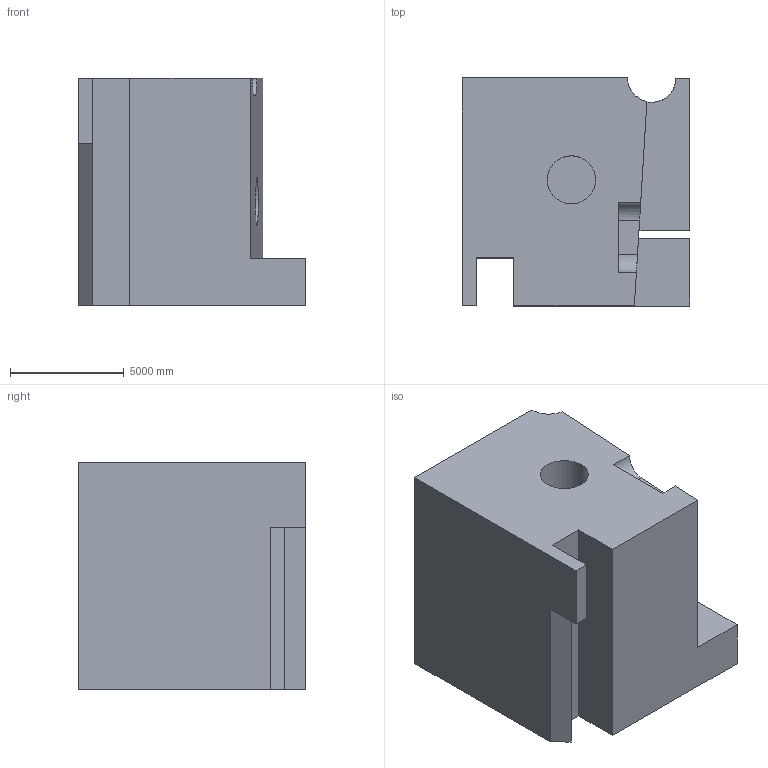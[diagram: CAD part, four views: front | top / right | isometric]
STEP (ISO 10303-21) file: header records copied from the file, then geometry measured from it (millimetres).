
FILE_DESCRIPTION (( 'STEP AP203' ), '1' );
FILE_NAME ('1799.STEP', '2022-08-25T15:48:54', ( 'user' ), ( '' ), 'SwSTEP 2.0', 'SolidWorks 2021', '' );
FILE_SCHEMA (( 'CONFIG_CONTROL_DESIGN' ));
Length unit declared in the file: centimetre
Products named in the file (1): 1799
Bounding box: 10000 x 10000 x 10000 mm (x, y, z)
Volume: 762598789191.2 mm3; surface area: 609377844.3 mm2
Topology: 1 solids, 1 shells, 32 faces, 84 edges, 56 vertices
Faces by surface type: plane 24, cylinder 8
Entity records: 1059 total; most frequent: CARTESIAN_POINT 188, ORIENTED_EDGE 168, DIRECTION 159, EDGE_CURVE 84, VECTOR 65, LINE 65, VERTEX_POINT 56, AXIS2_PLACEMENT_3D 47
